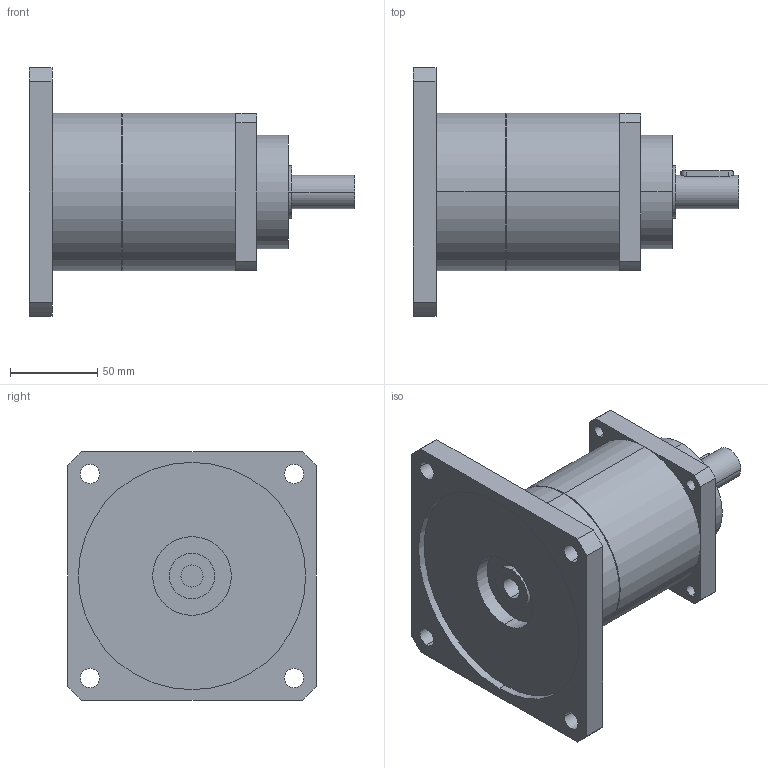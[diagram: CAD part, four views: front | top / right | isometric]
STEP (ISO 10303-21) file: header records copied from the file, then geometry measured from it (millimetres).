
FILE_DESCRIPTION(('CoCreate Modeling STEP Export'),'2;1');
FILE_NAME('GPT90_ig-9-12-16-20-25-28-35-40-50-70-100_19_B5T_12.7_P16.stp','2015-02-04T11:27:33',(''),(''),'CoCreate Modeling STEP processor for AP214 (Solid Model)','CoCreate Modeling 16.00C 25-Feb-2009 (C) Parametric Technology GmbH','');
FILE_SCHEMA(('AUTOMOTIVE_DESIGN { 1 0 10303 214 1 1 1 1 }'));
Length unit declared in the file: millimetre
Products named in the file (2): GPT90_ig-9-12-16-20-25-28-35-40-50-70-100_19_B5T_12.7_P16
Assembly tree (1 placements, depth 2):
  GPT90_ig-9-12-16-20-25-28-35-40-50-70-100_19_B5T_12.7_P16
    GPT90_ig-9-12-16-20-25-28-35-40-50-70-100_19_B5T_12.7_P16
Bounding box: 186 x 142 x 142 mm (x, y, z)
Volume: 1013518.6 mm3; surface area: 97828.9 mm2
Topology: 1 solids, 1 shells, 77 faces, 206 edges, 141 vertices
Faces by surface type: cylinder 46, plane 27, cone 4
Entity records: 2596 total; most frequent: CARTESIAN_POINT 742, ORIENTED_EDGE 412, DIRECTION 324, EDGE_CURVE 206, VERTEX_POINT 141, AXIS2_PLACEMENT_3D 120, EDGE_LOOP 103, VECTOR 84
